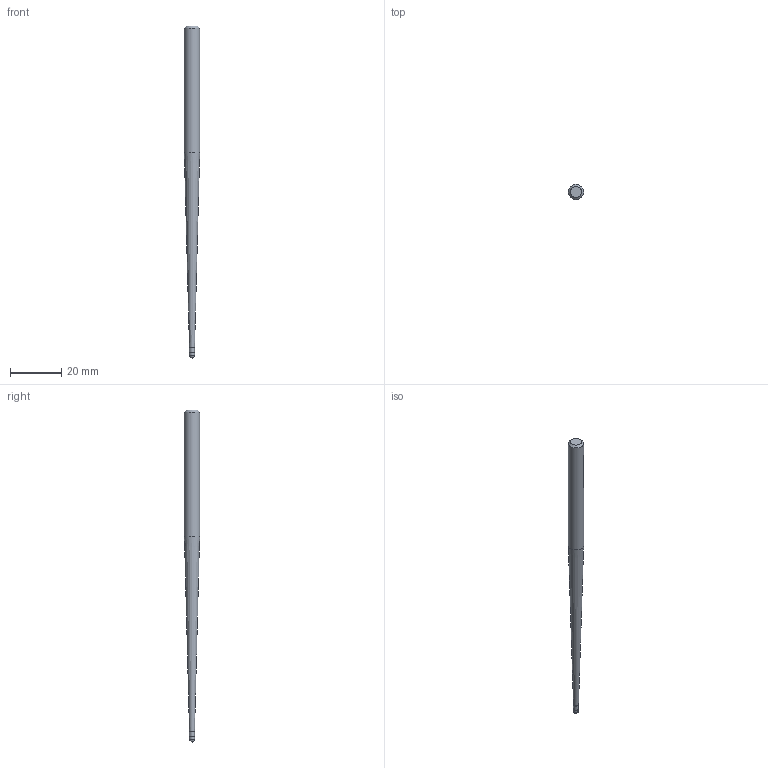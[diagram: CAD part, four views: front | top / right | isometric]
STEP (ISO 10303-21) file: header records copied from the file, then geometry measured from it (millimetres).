
FILE_DESCRIPTION((''),'2;1');
FILE_NAME('C:\Users\nsx150\AppData\Local\Temp\Mastercam 2021\SNAKH10GOD\TEMP.step','2021-10-21T13:33:14',(''),(''),'STEP Write','Mastercam 2021 ... CNC Software, Inc.','');
FILE_SCHEMA(('AUTOMOTIVE_DESIGN'));
Length unit declared in the file: millimetre
Products named in the file (1): None
Bounding box: 6 x 6 x 130 mm (x, y, z)
Volume: 2446.9 mm3; surface area: 1944.1 mm2
Topology: 2 solids, 2 shells, 9 faces, 14 edges, 8 vertices
Faces by surface type: plane 3, cylinder 3, cone 2, sphere 1
Full cylindrical faces by diameter (mm): 1.985 x1, 2 x1, 6 x1
Entity records: 211 total; most frequent: DIRECTION 36, CARTESIAN_POINT 25, AXIS2_PLACEMENT_3D 18, ORIENTED_EDGE 14, EDGE_LOOP 14, STYLED_ITEM 12, ADVANCED_FACE 9, FACE_BOUND 8
